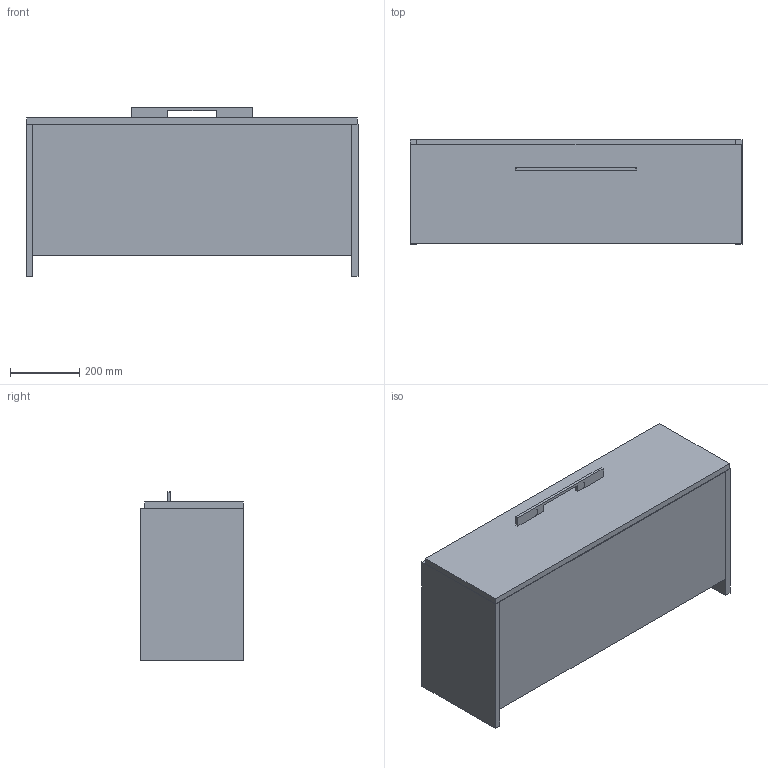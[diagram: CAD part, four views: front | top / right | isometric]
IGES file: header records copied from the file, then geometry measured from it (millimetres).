
Global section: file name: 100; native system: Autodesk Inventor 2024; preprocessor: unknown; author: pc19; date: 20250324.172753; units: millimetre
Bounding box: 960 x 300 x 488 mm (x, y, z)
Volume: 16397677.6 mm3; surface area: 2028091.7 mm2
Topology: 6 solids, 6 shells, 116 faces, 290 edges, 216 vertices
Faces by surface type: bspline 116
